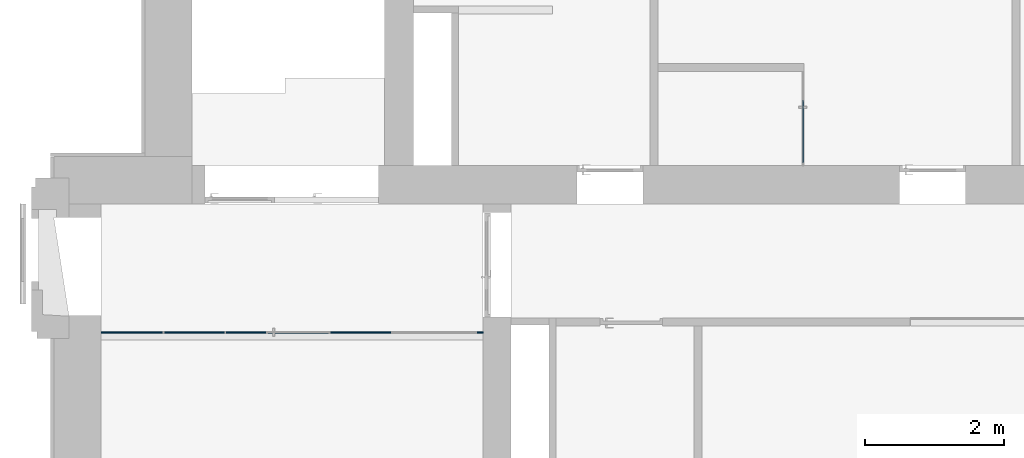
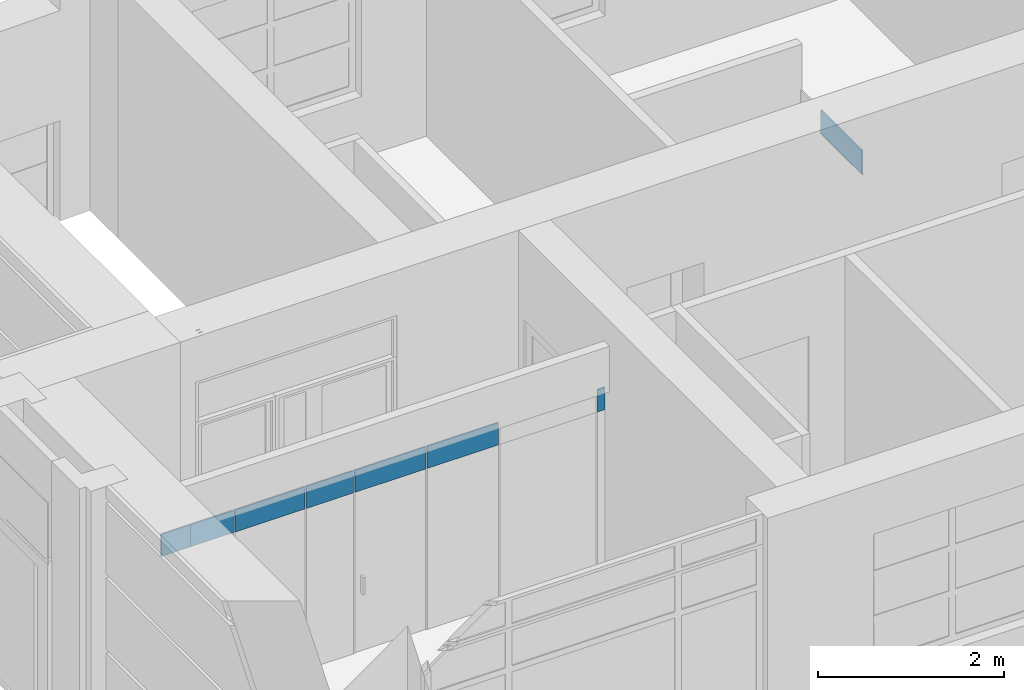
# One storey, part 38 of 73: 9 plates, 2 elements without a shape of their own.
"""IFC2X3 building model written with IfcOpenShell, lengths in millimetres."""

from ifc_helpers import new_model, entity, si_unit, converted_unit, derived_unit, direction, frame, origin, origin_2d_with_axis, place, context, subcontext, project, spatial, rectangle, extrude, source, transform, mapped, material, layer, layer_set, layer_usage, type_object, type_shapes, element, aggregate, save


model = new_model("IFC2X3")

# Units and contexts
model_context = context("Model", 3, precision=0.01, world=origin(), true_north=direction((6.12303176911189e-17, 1.0)))
body_context = subcontext(model_context, "Body", "Model", "MODEL_VIEW")
ifc_project = project(units=[si_unit("LENGTHUNIT", "METRE", prefix="MILLI"), si_unit("AREAUNIT", "SQUARE_METRE"), si_unit("VOLUMEUNIT", "CUBIC_METRE"), converted_unit("PLANEANGLEUNIT", "DEGREE", entity("IfcRatioMeasure", 0.0174532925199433), si_unit("PLANEANGLEUNIT", "RADIAN"), dimensions=[0, 0, 0, 0, 0, 0, 0]), si_unit("MASSUNIT", "GRAM", prefix="KILO"), derived_unit("MASSDENSITYUNIT", [(si_unit("MASSUNIT", "GRAM", prefix="KILO"), 1), (si_unit("LENGTHUNIT", "METRE"), -3)]), si_unit("TIMEUNIT", "SECOND"), si_unit("FREQUENCYUNIT", "HERTZ"), si_unit("THERMODYNAMICTEMPERATUREUNIT", "DEGREE_CELSIUS"), derived_unit("THERMALTRANSMITTANCEUNIT", [(si_unit("MASSUNIT", "GRAM", prefix="KILO"), 1), (si_unit("THERMODYNAMICTEMPERATUREUNIT", "KELVIN"), -1), (si_unit("TIMEUNIT", "SECOND"), -3)]), derived_unit("VOLUMETRICFLOWRATEUNIT", [(si_unit("LENGTHUNIT", "METRE"), 3), (si_unit("TIMEUNIT", "SECOND"), -1)]), si_unit("ELECTRICCURRENTUNIT", "AMPERE"), si_unit("ELECTRICVOLTAGEUNIT", "VOLT"), si_unit("POWERUNIT", "WATT"), si_unit("FORCEUNIT", "NEWTON", prefix="KILO"), si_unit("ILLUMINANCEUNIT", "LUX"), si_unit("LUMINOUSFLUXUNIT", "LUMEN"), si_unit("LUMINOUSINTENSITYUNIT", "CANDELA"), derived_unit("USERDEFINED", [(si_unit("MASSUNIT", "GRAM", prefix="KILO"), -1), (si_unit("LENGTHUNIT", "METRE"), -2), (si_unit("TIMEUNIT", "SECOND"), 3), (si_unit("LUMINOUSFLUXUNIT", "LUMEN"), 1)]), derived_unit("LINEARVELOCITYUNIT", [(si_unit("LENGTHUNIT", "METRE"), 1), (si_unit("TIMEUNIT", "SECOND"), -1)]), si_unit("PRESSUREUNIT", "PASCAL"), derived_unit("USERDEFINED", [(si_unit("LENGTHUNIT", "METRE"), -2), (si_unit("MASSUNIT", "GRAM", prefix="KILO"), 1), (si_unit("TIMEUNIT", "SECOND"), -2)])], contexts=[model_context])

# Site, building, storey
site_placement = place(None, frame((-151.875543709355, 2715.0, 0.0)))
site = spatial("IfcSite", under=ifc_project, at=site_placement, Name="Surface", CompositionType="ELEMENT")
building_placement = place(site_placement, origin())
building = spatial("IfcBuilding", under=site, at=building_placement, CompositionType="ELEMENT")
storey_placement = place(building_placement, frame((0.0, 0.0, 6730.43000000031)))
storey = spatial("IfcBuildingStorey", under=building, at=storey_placement, Name="3 korrus", CompositionType="ELEMENT", Elevation=6730.43000000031)

# Curtain wall, plates
curtain_wall_type_1 = type_object("IfcCurtainWallType", Name="Curtain Wall:Klaassein KLS-10", PredefinedType="NOTDEFINED")
curtain_wall_1_placement = place(storey_placement, frame((0.0, 0.0, -6730.43000000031)))
curtain_wall_1 = element("IfcCurtainWall", 1, at=curtain_wall_1_placement, inside=storey, type_object=curtain_wall_type_1, Name="Curtain Wall:Klaassein KLS-10", ObjectType="Curtain Wall:Klaassein KLS-10")
ifc_material = material(Name="<Unnamed>")
ifc_layer = layer(ifc_material, 20.0)
ifc_layer_set = layer_set([ifc_layer], Name="Curtain Wall:Klaassein KLS-01")
ifc_layer_usage_1 = layer_usage(ifc_layer_set, "AXIS3", "POSITIVE", 0.0)
plate_type_1 = type_object("IfcPlateType", Name="Glazed", PredefinedType="CURTAIN_PANEL", material=ifc_layer_set)
shared_shape_1 = source(origin(), body_context, "Body", "SweptSolid", [
    extrude(rectangle(XDim=20.0, YDim=900.0000003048, at=origin_2d_with_axis()), frame((0.0, 0.0, 0.0), z_axis=(0.0, 0.0, 1.0), x_axis=(0.0, 1.0, 0.0)), (0.0, 0.0, 1.0), 9.99999999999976),
])
type_shapes(plate_type_1, [shared_shape_1])
plate_1_placement = place(curtain_wall_1_placement, frame((10572.8493480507, 7050.0, 8820.43000000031), z_axis=(0.0, 0.0, 1.0), x_axis=(0.0, -1.0, 0.0)))
plate_1 = element("IfcPlate", 2, at=plate_1_placement, type_object=plate_type_1, material=ifc_layer_usage_1, Name="System Panel:Glazed", ObjectType="Glazed", context=body_context, shape_type="MappedRepresentation", body=[
    mapped(shared_shape_1, transform((0.0, 0.0, 0.0), scale=1.0)),
])
ifc_layer_usage_2 = layer_usage(ifc_layer_set, "AXIS3", "POSITIVE", 0.0)
plate_type_2 = type_object("IfcPlateType", Name="Glazed", PredefinedType="CURTAIN_PANEL", material=ifc_layer_set)
shared_shape_2 = source(origin(), body_context, "Body", "SweptSolid", [
    extrude(rectangle(XDim=20.0, YDim=879.999999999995, at=origin_2d_with_axis()), frame((0.0, 0.0, 0.0), z_axis=(0.0, 0.0, 1.0), x_axis=(0.0, 1.0, 0.0)), (0.0, 0.0, 1.0), 299.999999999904),
])
type_shapes(plate_type_2, [shared_shape_2])
plate_2_placement = place(curtain_wall_1_placement, frame((10572.8493480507, 7050.0, 8830.43000000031), z_axis=(0.0, 0.0, 1.0), x_axis=(0.0, -1.0, 0.0)))
plate_2 = element("IfcPlate", 3, at=plate_2_placement, type_object=plate_type_2, material=ifc_layer_usage_2, Name="System Panel:Glazed", ObjectType="Glazed", context=body_context, shape_type="MappedRepresentation", body=[
    mapped(shared_shape_2, transform((0.0, 0.0, 0.0), scale=1.0)),
])
aggregate(curtain_wall_1, [plate_1, plate_2])

curtain_wall_type_2 = type_object("IfcCurtainWallType", Name="Curtain Wall:Klaassein KLS-07", PredefinedType="NOTDEFINED")
curtain_wall_2_placement = place(storey_placement, frame((0.0, 0.0, -6730.43000000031)))
curtain_wall_2 = element("IfcCurtainWall", 4, at=curtain_wall_2_placement, inside=storey, type_object=curtain_wall_type_2, Name="Curtain Wall:Klaassein KLS-07", ObjectType="Curtain Wall:Klaassein KLS-07")
ifc_layer_usage_3 = layer_usage(ifc_layer_set, "AXIS3", "POSITIVE", 0.0)
plate_type_3 = type_object("IfcPlateType", Name="Glazed", PredefinedType="CURTAIN_PANEL", material=ifc_layer_set)
shared_shape_3 = source(origin(), body_context, "Body", "SweptSolid", [
    extrude(rectangle(XDim=20.0, YDim=580.0, at=origin_2d_with_axis()), frame((0.0, 0.0, 0.0), z_axis=(0.0, 0.0, 1.0), x_axis=(0.0, 1.0, 0.0)), (0.0, 0.0, 1.0), 290.000000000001),
])
type_shapes(plate_type_3, [shared_shape_3])
plate_3_placement = place(curtain_wall_2_placement, frame((2549.87554580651, 4155.04146275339, 8840.43000000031)))
plate_3 = element("IfcPlate", 5, at=plate_3_placement, type_object=plate_type_3, material=ifc_layer_usage_3, Name="System Panel:Glazed", ObjectType="Glazed", context=body_context, shape_type="MappedRepresentation", body=[
    mapped(shared_shape_3, transform((0.0, 0.0, 0.0), scale=1.0)),
])
ifc_layer_usage_4 = layer_usage(ifc_layer_set, "AXIS3", "POSITIVE", 0.0)
plate_type_4 = type_object("IfcPlateType", Name="Glazed", PredefinedType="CURTAIN_PANEL", material=ifc_layer_set)
shared_shape_4 = source(origin(), body_context, "Body", "SweptSolid", [
    extrude(rectangle(XDim=20.0, YDim=880.000000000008, at=origin_2d_with_axis()), frame((0.0, 0.0, 0.0), z_axis=(0.0, 0.0, 1.0), x_axis=(0.0, 1.0, 0.0)), (0.0, 0.0, 1.0), 290.0),
])
type_shapes(plate_type_4, [shared_shape_4])
plate_4_placement = place(curtain_wall_2_placement, frame((3299.87554580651, 4155.04146275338, 8840.43000000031)))
plate_4 = element("IfcPlate", 6, at=plate_4_placement, type_object=plate_type_4, material=ifc_layer_usage_4, Name="System Panel:Glazed", ObjectType="Glazed", context=body_context, shape_type="MappedRepresentation", body=[
    mapped(shared_shape_4, transform((0.0, 0.0, 0.0), scale=1.0)),
])
ifc_layer_usage_5 = layer_usage(ifc_layer_set, "AXIS3", "POSITIVE", 0.0)
plate_5_placement = place(curtain_wall_2_placement, frame((4199.87554580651, 4155.04146275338, 8840.43000000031)))
plate_5 = element("IfcPlate", 7, at=plate_5_placement, type_object=plate_type_4, material=ifc_layer_usage_5, Name="System Panel:Glazed", ObjectType="Glazed", context=body_context, shape_type="MappedRepresentation", body=[
    mapped(shared_shape_4, transform((0.0, 0.0, 0.0), scale=1.0)),
])
ifc_layer_usage_6 = layer_usage(ifc_layer_set, "AXIS3", "POSITIVE", 0.0)
plate_type_5 = type_object("IfcPlateType", Name="Glazed", PredefinedType="CURTAIN_PANEL", material=ifc_layer_set)
shared_shape_5 = source(origin(), body_context, "Body", "SweptSolid", [
    extrude(rectangle(XDim=20.0, YDim=357.617983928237, at=origin_2d_with_axis()), frame((0.0, 0.0, 0.0), z_axis=(0.0, 0.0, 1.0), x_axis=(0.0, 1.0, 0.0)), (0.0, 0.0, 1.0), 289.999999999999),
])
type_shapes(plate_type_5, [shared_shape_5])
plate_6_placement = place(curtain_wall_2_placement, frame((638.684537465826, 4155.04146275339, 8840.43000000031)))
plate_6 = element("IfcPlate", 8, at=plate_6_placement, type_object=plate_type_5, material=ifc_layer_usage_6, Name="System Panel:Glazed", ObjectType="Glazed", context=body_context, shape_type="MappedRepresentation", body=[
    mapped(shared_shape_5, transform((0.0, 0.0, 0.0), scale=1.0)),
])
ifc_layer_usage_7 = layer_usage(ifc_layer_set, "AXIS3", "POSITIVE", 0.0)
plate_type_6 = type_object("IfcPlateType", Name="Glazed", PredefinedType="CURTAIN_PANEL", material=ifc_layer_set)
shared_shape_6 = source(origin(), body_context, "Body", "SweptSolid", [
    extrude(rectangle(XDim=20.0, YDim=532.382016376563, at=origin_2d_with_axis()), frame((0.0, 0.0, 0.0), z_axis=(0.0, 0.0, 1.0), x_axis=(0.0, 1.0, 0.0)), (0.0, 0.0, 1.0), 289.999999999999),
])
type_shapes(plate_type_6, [shared_shape_6])
plate_7_placement = place(curtain_wall_2_placement, frame((1083.68453761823, 4155.04146275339, 8840.43000000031)))
plate_7 = element("IfcPlate", 9, at=plate_7_placement, type_object=plate_type_6, material=ifc_layer_usage_7, Name="System Panel:Glazed", ObjectType="Glazed", context=body_context, shape_type="MappedRepresentation", body=[
    mapped(shared_shape_6, transform((0.0, 0.0, 0.0), scale=1.0)),
])
ifc_layer_usage_8 = layer_usage(ifc_layer_set, "AXIS3", "POSITIVE", 0.0)
plate_type_7 = type_object("IfcPlateType", Name="Glazed", PredefinedType="CURTAIN_PANEL", material=ifc_layer_set)
shared_shape_7 = source(origin(), body_context, "Body", "SweptSolid", [
    extrude(rectangle(XDim=20.0, YDim=870.0, at=origin_2d_with_axis()), frame((0.0, 0.0, 0.0), z_axis=(0.0, 0.0, 1.0), x_axis=(0.0, 1.0, 0.0)), (0.0, 0.0, 1.0), 289.999999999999),
])
type_shapes(plate_type_7, [shared_shape_7])
plate_8_placement = place(curtain_wall_2_placement, frame((1804.87554580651, 4155.04146275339, 8840.43000000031)))
plate_8 = element("IfcPlate", 10, at=plate_8_placement, type_object=plate_type_7, material=ifc_layer_usage_8, Name="System Panel:Glazed", ObjectType="Glazed", context=body_context, shape_type="MappedRepresentation", body=[
    mapped(shared_shape_7, transform((0.0, 0.0, 0.0), scale=1.0)),
])
ifc_layer_usage_9 = layer_usage(ifc_layer_set, "AXIS3", "POSITIVE", 0.0)
plate_type_8 = type_object("IfcPlateType", Name="Glazed", PredefinedType="CURTAIN_PANEL", material=ifc_layer_set)
shared_shape_8 = source(origin(), body_context, "Body", "SweptSolid", [
    extrude(rectangle(XDim=20.0, YDim=92.6179836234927, at=origin_2d_with_axis()), frame((0.0, 0.0, 0.0), z_axis=(0.0, 0.0, 1.0), x_axis=(0.0, 1.0, 0.0)), (0.0, 0.0, 1.0), 290.000000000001),
])
type_shapes(plate_type_8, [shared_shape_8])
plate_9_placement = place(curtain_wall_2_placement, frame((5916.18453761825, 4155.04146275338, 8840.43000000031)))
plate_9 = element("IfcPlate", 11, at=plate_9_placement, type_object=plate_type_8, material=ifc_layer_usage_9, Name="System Panel:Glazed", ObjectType="Glazed", context=body_context, shape_type="MappedRepresentation", body=[
    mapped(shared_shape_8, transform((0.0, 0.0, 0.0), scale=1.0)),
])
aggregate(curtain_wall_2, [plate_6, plate_7, plate_8, plate_3, plate_4, plate_5, plate_9])

save(model, "model.ifc")
